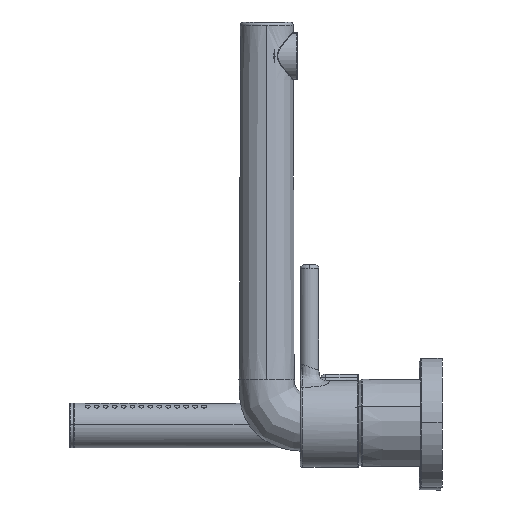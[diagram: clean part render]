
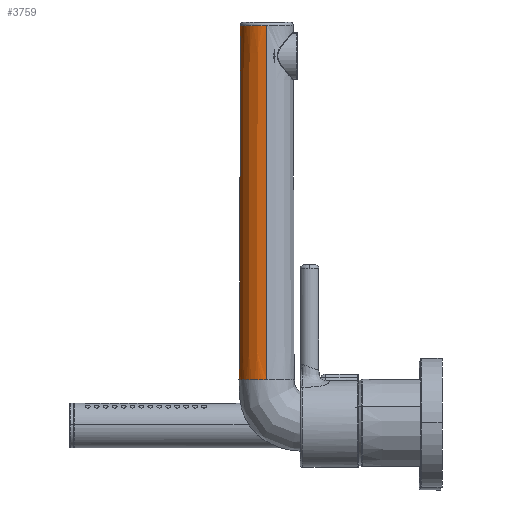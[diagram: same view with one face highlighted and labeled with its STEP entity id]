
A CAD part, left-side view. The second image highlights one B-rep face of the part: STEP entity #3759.
In plain terms, the highlighted conical face has half-angle 0.169 degrees and reference radius 15.5 mm.
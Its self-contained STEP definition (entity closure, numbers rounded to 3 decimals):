
#168 = CARTESIAN_POINT ( 'NONE',  ( 4.057, 113.097, 24. ) ) ;
#175 = CARTESIAN_POINT ( 'NONE',  ( 0., 112.918, 222.006 ) ) ;
#288 = CARTESIAN_POINT ( 'NONE',  ( 9.525, 110.395, 24. ) ) ;
#514 = EDGE_LOOP ( 'NONE', ( #7877, #4513, #18385, #17067, #9781, #9989 ) ) ;
#571 = CARTESIAN_POINT ( 'NONE',  ( -15.097, 102.057, 24. ) ) ;
#696 = CARTESIAN_POINT ( 'NONE',  ( -9.525, 110.395, 24. ) ) ;
#867 = CARTESIAN_POINT ( 'NONE',  ( -14.918, 98., 222.006 ) ) ;
#1264 = EDGE_CURVE ( 'NONE', #9568, #16687, #16378, .T. ) ;
#1901 = CARTESIAN_POINT ( 'NONE',  ( 0., 113.5, 24. ) ) ;
#1993 = DIRECTION ( 'NONE',  ( 0., 0., -1. ) ) ;
#2160 = DIRECTION ( 'NONE',  ( -1., 0., 0. ) ) ;
#2952 = AXIS2_PLACEMENT_3D ( 'NONE', #17108, #1993, #15387 ) ;
#3547 = CARTESIAN_POINT ( 'NONE',  ( -12.395, 107.525, 24. ) ) ;
#3604 = VERTEX_POINT ( 'NONE', #175 ) ;
#3675 = CARTESIAN_POINT ( 'NONE',  ( -15.5, 100.029, 24. ) ) ;
#3722 = FACE_OUTER_BOUND ( 'NONE', #514, .T. ) ;
#3759 = ADVANCED_FACE ( 'NONE', ( #3722 ), #12951, .T. ) ;
#3910 = VERTEX_POINT ( 'NONE', #12776 ) ;
#4513 = ORIENTED_EDGE ( 'NONE', *, *, #18545, .T. ) ;
#4755 = CARTESIAN_POINT ( 'NONE',  ( 15.5, 100.029, 24. ) ) ;
#4820 = CARTESIAN_POINT ( 'NONE',  ( 13.544, 105.806, 24. ) ) ;
#5251 = CARTESIAN_POINT ( 'NONE',  ( 0., 98., 222.006 ) ) ;
#6256 = CARTESIAN_POINT ( 'NONE',  ( 0., 113.5, 24. ) ) ;
#6412 = EDGE_CURVE ( 'NONE', #7642, #3910, #14159, .T. ) ;
#6620 = CARTESIAN_POINT ( 'NONE',  ( -13.544, 105.806, 24. ) ) ;
#7642 = VERTEX_POINT ( 'NONE', #1901 ) ;
#7877 = ORIENTED_EDGE ( 'NONE', *, *, #12381, .T. ) ;
#8014 = DIRECTION ( 'NONE',  ( 0., 0., -1. ) ) ;
#8059 = VERTEX_POINT ( 'NONE', #867 ) ;
#8252 = VECTOR ( 'NONE', #12205, 1000. ) ;
#8258 = CARTESIAN_POINT ( 'NONE',  ( -15.5, 98., 24. ) ) ;
#9177 = CARTESIAN_POINT ( 'NONE',  ( 7.806, 111.544, 24. ) ) ;
#9255 = VECTOR ( 'NONE', #16334, 1000. ) ;
#9444 = CARTESIAN_POINT ( 'NONE',  ( 15.5, 98., 24. ) ) ;
#9568 = VERTEX_POINT ( 'NONE', #12835 ) ;
#9691 = DIRECTION ( 'NONE',  ( 0., 0., -1. ) ) ;
#9781 = ORIENTED_EDGE ( 'NONE', *, *, #6412, .T. ) ;
#9824 = DIRECTION ( 'NONE',  ( -1., 0., 0. ) ) ;
#9939 = EDGE_CURVE ( 'NONE', #16687, #7642, #14859, .T. ) ;
#9989 = ORIENTED_EDGE ( 'NONE', *, *, #13253, .F. ) ;
#10325 = AXIS2_PLACEMENT_3D ( 'NONE', #11171, #8014, #2160 ) ;
#10665 = CARTESIAN_POINT ( 'NONE',  ( 15.5, 98., 24. ) ) ;
#10920 = CARTESIAN_POINT ( 'NONE',  ( 15.097, 102.057, 24. ) ) ;
#11171 = CARTESIAN_POINT ( 'NONE',  ( 0., 98., 222.006 ) ) ;
#12205 = DIRECTION ( 'NONE',  ( 0.003, 0., -1. ) ) ;
#12381 = EDGE_CURVE ( 'NONE', #8059, #3604, #19471, .T. ) ;
#12622 = CARTESIAN_POINT ( 'NONE',  ( 0., 113.5, 24. ) ) ;
#12743 = CARTESIAN_POINT ( 'NONE',  ( -2.029, 113.5, 24. ) ) ;
#12776 = CARTESIAN_POINT ( 'NONE',  ( -15.5, 98., 24. ) ) ;
#12835 = CARTESIAN_POINT ( 'NONE',  ( 14.918, 98., 222.006 ) ) ;
#12870 = CARTESIAN_POINT ( 'NONE',  ( -7.806, 111.544, 24. ) ) ;
#12951 = CONICAL_SURFACE ( 'NONE', #2952, 15.5, 0.003 ) ;
#13253 = EDGE_CURVE ( 'NONE', #8059, #3910, #17106, .T. ) ;
#14159 = B_SPLINE_CURVE_WITH_KNOTS ( 'NONE', 3,
 ( #12622, #12743, #14329, #12870, #696, #3547, #6620, #571, #3675, #8258 ),
 .UNSPECIFIED., .F., .F.,
 ( 4, 2, 2, 2, 4 ),
 ( 0., 0.125, 0.25, 0.375, 0.5 ),
 .UNSPECIFIED. ) ;
#14329 = CARTESIAN_POINT ( 'NONE',  ( -4.057, 113.097, 24. ) ) ;
#14859 = B_SPLINE_CURVE_WITH_KNOTS ( 'NONE', 3,
 ( #9444, #4755, #10920, #4820, #18436, #288, #9177, #168, #15381, #6256 ),
 .UNSPECIFIED., .F., .F.,
 ( 4, 2, 2, 2, 4 ),
 ( 0.5, 0.625, 0.75, 0.875, 1. ),
 .UNSPECIFIED. ) ;
#15381 = CARTESIAN_POINT ( 'NONE',  ( 2.029, 113.5, 24. ) ) ;
#15387 = DIRECTION ( 'NONE',  ( -1., 0., 0. ) ) ;
#16334 = DIRECTION ( 'NONE',  ( -0.003, 0., -1. ) ) ;
#16378 = LINE ( 'NONE', #10665, #8252 ) ;
#16598 = CARTESIAN_POINT ( 'NONE',  ( 15.5, 98., 24. ) ) ;
#16687 = VERTEX_POINT ( 'NONE', #16598 ) ;
#17067 = ORIENTED_EDGE ( 'NONE', *, *, #9939, .T. ) ;
#17106 = LINE ( 'NONE', #19503, #9255 ) ;
#17108 = CARTESIAN_POINT ( 'NONE',  ( 0., 98., 24. ) ) ;
#17749 = CIRCLE ( 'NONE', #18445, 14.918 ) ;
#18385 = ORIENTED_EDGE ( 'NONE', *, *, #1264, .T. ) ;
#18436 = CARTESIAN_POINT ( 'NONE',  ( 12.395, 107.525, 24. ) ) ;
#18445 = AXIS2_PLACEMENT_3D ( 'NONE', #5251, #9691, #9824 ) ;
#18545 = EDGE_CURVE ( 'NONE', #3604, #9568, #17749, .T. ) ;
#19471 = CIRCLE ( 'NONE', #10325, 14.918 ) ;
#19503 = CARTESIAN_POINT ( 'NONE',  ( -15.5, 98., 24. ) ) ;
